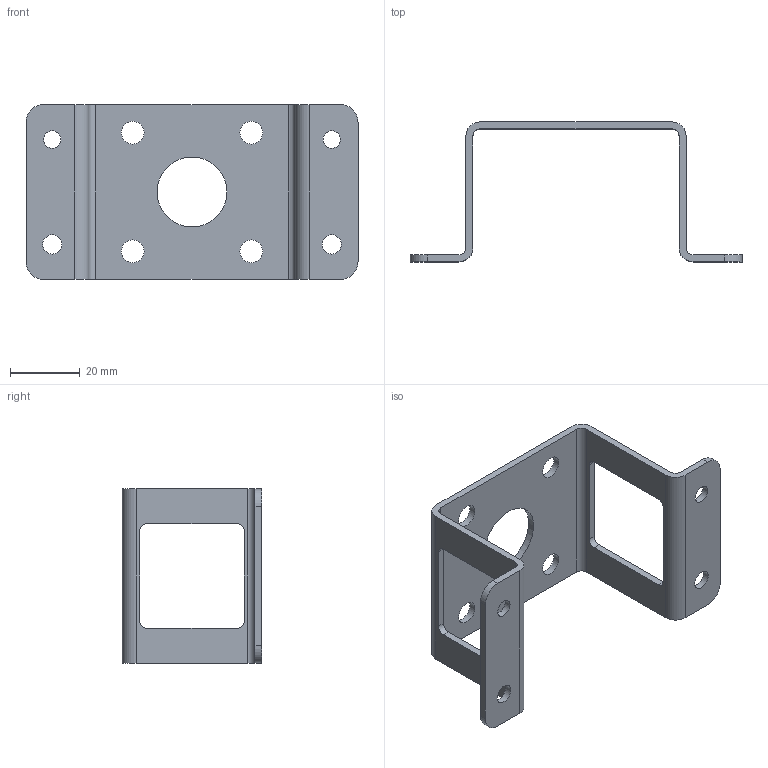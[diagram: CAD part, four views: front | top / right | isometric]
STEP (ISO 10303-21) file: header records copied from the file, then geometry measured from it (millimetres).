
FILE_DESCRIPTION(/* description */ (''),/* implementation_level */ '2;1');
FILE_NAME(/* name */ 'L:\DATA\ENG\Inventor\Econ 3D modellen\switchbox\HKC\Econ switchbox 79652\Bracket 80x30-F05 (standard).stp',/* time_stamp */ '2024-01-16T13:25:15+01:00',/* author */ ('roger.thijssen'),/* organization */ (''),/* preprocessor_version */ 'ST-DEVELOPER v18',/* originating_system */ 'Autodesk Inventor 2020',/* authorisation */ '');
FILE_SCHEMA (('CONFIG_CONTROL_DESIGN'));
Length unit declared in the file: millimetre
Products named in the file (1): Bracket 80x30-F05 (standard)
Bounding box: 95 x 40 x 50 mm (x, y, z)
Volume: 11888.4 mm3; surface area: 13621.9 mm2
Topology: 1 solids, 1 shells, 51 faces, 147 edges, 98 vertices
Faces by surface type: cylinder 29, plane 22
Full cylindrical faces by diameter (mm): 5 x2, 5.5 x2, 6.5 x4, 20 x1
Entity records: 1784 total; most frequent: DIRECTION 309, CARTESIAN_POINT 297, ORIENTED_EDGE 294, EDGE_CURVE 147, AXIS2_PLACEMENT_3D 110, VERTEX_POINT 98, LINE 89, VECTOR 89
